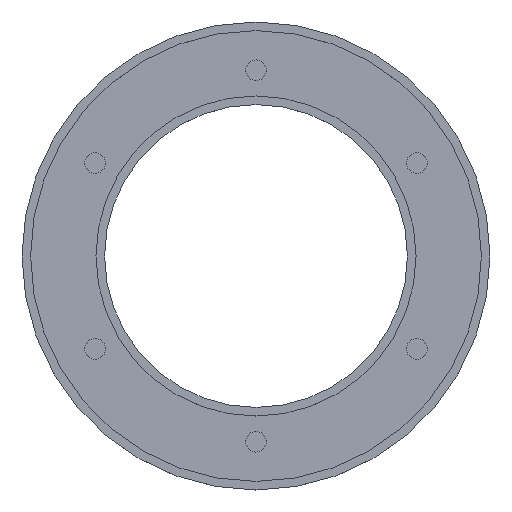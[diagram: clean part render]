
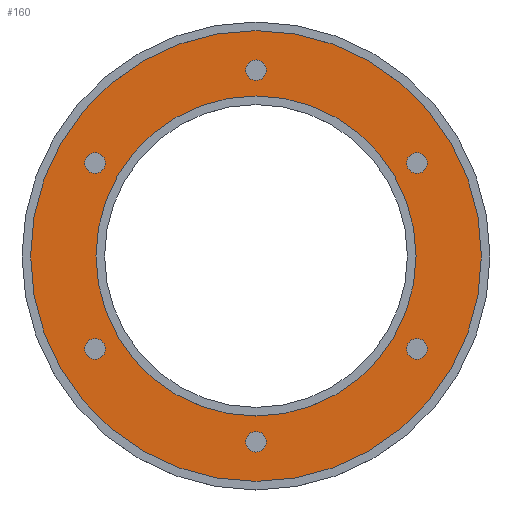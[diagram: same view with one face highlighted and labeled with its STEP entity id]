
A CAD part, top view. The second image highlights one B-rep face of the part: STEP entity #160.
In plain terms, the highlighted planar face has unit normal (0, 0, 1).
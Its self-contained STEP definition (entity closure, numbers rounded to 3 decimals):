
#120 = VERTEX_POINT('',#121);
#121 = CARTESIAN_POINT('',(65.5,0.,-11.5));
#127 = EDGE_CURVE('',#120,#120,#128,.T.);
#128 = CIRCLE('',#129,65.5);
#129 = AXIS2_PLACEMENT_3D('',#130,#131,#132);
#130 = CARTESIAN_POINT('',(0.,0.,-11.5));
#131 = DIRECTION('',(0.,0.,1.));
#132 = DIRECTION('',(1.,0.,0.));
#160 = ADVANCED_FACE('',(#161,#164,#175,#186,#197,#208,#219,#230),#241,
  .T.);
#161 = FACE_BOUND('',#162,.T.);
#162 = EDGE_LOOP('',(#163));
#163 = ORIENTED_EDGE('',*,*,#127,.T.);
#164 = FACE_BOUND('',#165,.F.);
#165 = EDGE_LOOP('',(#166));
#166 = ORIENTED_EDGE('',*,*,#167,.T.);
#167 = EDGE_CURVE('',#168,#168,#170,.T.);
#168 = VERTEX_POINT('',#169);
#169 = CARTESIAN_POINT('',(46.5,0.,-11.5));
#170 = CIRCLE('',#171,46.5);
#171 = AXIS2_PLACEMENT_3D('',#172,#173,#174);
#172 = CARTESIAN_POINT('',(0.,0.,-11.5));
#173 = DIRECTION('',(0.,0.,1.));
#174 = DIRECTION('',(1.,0.,0.));
#175 = FACE_BOUND('',#176,.F.);
#176 = EDGE_LOOP('',(#177));
#177 = ORIENTED_EDGE('',*,*,#178,.T.);
#178 = EDGE_CURVE('',#179,#179,#181,.T.);
#179 = VERTEX_POINT('',#180);
#180 = CARTESIAN_POINT('',(-43.765,27.,-11.5));
#181 = CIRCLE('',#182,3.);
#182 = AXIS2_PLACEMENT_3D('',#183,#184,#185);
#183 = CARTESIAN_POINT('',(-46.765,27.,-11.5));
#184 = DIRECTION('',(0.,0.,1.));
#185 = DIRECTION('',(1.,0.,0.));
#186 = FACE_BOUND('',#187,.F.);
#187 = EDGE_LOOP('',(#188));
#188 = ORIENTED_EDGE('',*,*,#189,.T.);
#189 = EDGE_CURVE('',#190,#190,#192,.T.);
#190 = VERTEX_POINT('',#191);
#191 = CARTESIAN_POINT('',(-43.765,-27.,-11.5));
#192 = CIRCLE('',#193,3.);
#193 = AXIS2_PLACEMENT_3D('',#194,#195,#196);
#194 = CARTESIAN_POINT('',(-46.765,-27.,-11.5));
#195 = DIRECTION('',(0.,0.,1.));
#196 = DIRECTION('',(1.,0.,0.));
#197 = FACE_BOUND('',#198,.F.);
#198 = EDGE_LOOP('',(#199));
#199 = ORIENTED_EDGE('',*,*,#200,.T.);
#200 = EDGE_CURVE('',#201,#201,#203,.T.);
#201 = VERTEX_POINT('',#202);
#202 = CARTESIAN_POINT('',(3.,-54.,-11.5));
#203 = CIRCLE('',#204,3.);
#204 = AXIS2_PLACEMENT_3D('',#205,#206,#207);
#205 = CARTESIAN_POINT('',(0.,-54.,-11.5));
#206 = DIRECTION('',(0.,0.,1.));
#207 = DIRECTION('',(1.,0.,0.));
#208 = FACE_BOUND('',#209,.F.);
#209 = EDGE_LOOP('',(#210));
#210 = ORIENTED_EDGE('',*,*,#211,.T.);
#211 = EDGE_CURVE('',#212,#212,#214,.T.);
#212 = VERTEX_POINT('',#213);
#213 = CARTESIAN_POINT('',(49.765,-27.,-11.5));
#214 = CIRCLE('',#215,3.);
#215 = AXIS2_PLACEMENT_3D('',#216,#217,#218);
#216 = CARTESIAN_POINT('',(46.765,-27.,-11.5));
#217 = DIRECTION('',(0.,0.,1.));
#218 = DIRECTION('',(1.,0.,0.));
#219 = FACE_BOUND('',#220,.F.);
#220 = EDGE_LOOP('',(#221));
#221 = ORIENTED_EDGE('',*,*,#222,.T.);
#222 = EDGE_CURVE('',#223,#223,#225,.T.);
#223 = VERTEX_POINT('',#224);
#224 = CARTESIAN_POINT('',(49.765,27.,-11.5));
#225 = CIRCLE('',#226,3.);
#226 = AXIS2_PLACEMENT_3D('',#227,#228,#229);
#227 = CARTESIAN_POINT('',(46.765,27.,-11.5));
#228 = DIRECTION('',(0.,0.,1.));
#229 = DIRECTION('',(1.,0.,0.));
#230 = FACE_BOUND('',#231,.F.);
#231 = EDGE_LOOP('',(#232));
#232 = ORIENTED_EDGE('',*,*,#233,.T.);
#233 = EDGE_CURVE('',#234,#234,#236,.T.);
#234 = VERTEX_POINT('',#235);
#235 = CARTESIAN_POINT('',(3.,54.,-11.5));
#236 = CIRCLE('',#237,3.);
#237 = AXIS2_PLACEMENT_3D('',#238,#239,#240);
#238 = CARTESIAN_POINT('',(0.,54.,-11.5));
#239 = DIRECTION('',(0.,0.,1.));
#240 = DIRECTION('',(1.,0.,0.));
#241 = PLANE('',#242);
#242 = AXIS2_PLACEMENT_3D('',#243,#244,#245);
#243 = CARTESIAN_POINT('',(0.,0.,-11.5));
#244 = DIRECTION('',(0.,0.,1.));
#245 = DIRECTION('',(1.,0.,0.));
